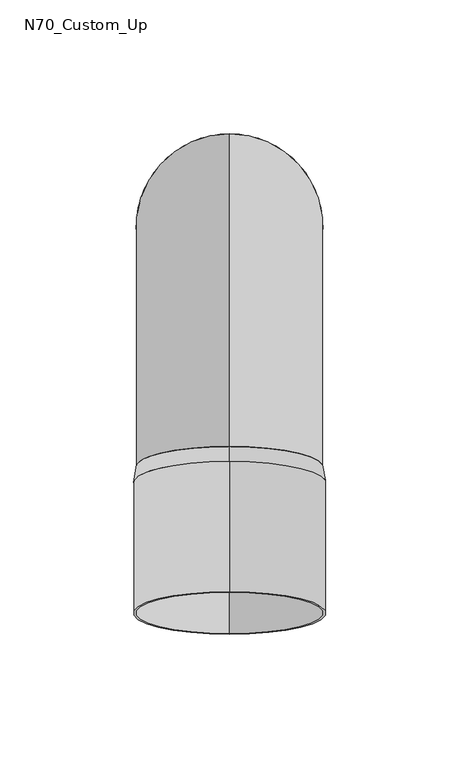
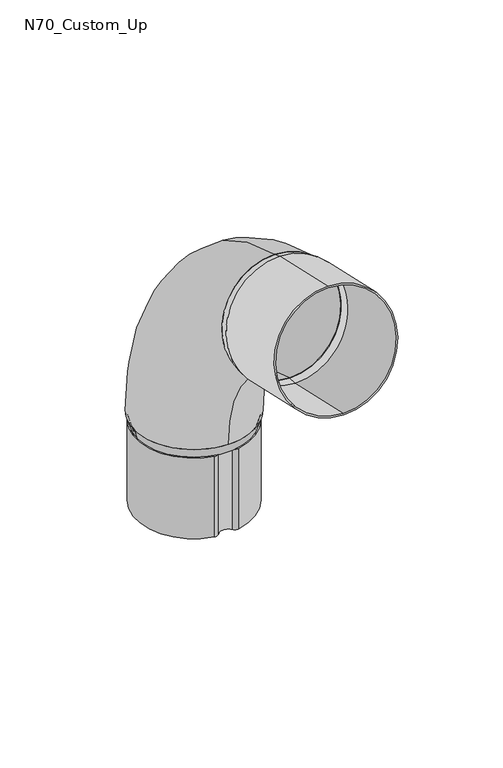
"""IFC4 building model written with IfcOpenShell, lengths in millimetres: proxy geometry, GROVIK_Downpipe_Elbow : N70_Custom_Up."""

from ifc_helpers import new_model, si_unit, point, frame, frame_2d, origin, origin_with_axes, origin_2d, place, context, project, spatial, polyline, circle_curve, ellipse_curve, trimmed, segment, composite_curve, outline, extrude, source, transform, mapped, element, save
from ifc_brep_helpers import plane_surface, revolved_surface, advanced_brep


def n70_custom_up_fea1b935(model_context):
    return source(origin(), model_context, "Body", "SolidModel", [
        advanced_brep(
        [(0.0, 35.0, 0.0), (0.0, -35.0, 0.0), (0.0, 34.0, 0.0), (0.0, -34.0, 0.0), (0.0, -81.9975304, 146.3244238), (0.0, -97.3986829, 78.0396927), (0.0, -82.2175469, 145.3489276), (0.0, -97.1786664, 79.0151889)],
        [
            (0, 1, circle_curve(frame((0.0, 0.0, 0.0), z_axis=(0.0, 0.0, -1.0), x_axis=(0.0, -1.0, 0.0)), 35.0)),
            (1, 0, circle_curve(frame((0.0, 0.0, 0.0), z_axis=(0.0, 0.0, -1.0), x_axis=(0.0, -1.0, 0.0)), 35.0)),
            (2, 3, circle_curve(frame((0.0, 0.0, 0.0), z_axis=(0.0, 0.0, 1.0), x_axis=(0.0, -1.0, 0.0)), 34.0)),
            (3, 2, circle_curve(frame((0.0, 0.0, 0.0), z_axis=(0.0, 0.0, 1.0), x_axis=(0.0, -1.0, 0.0)), 34.0)),
            (4, 5, circle_curve(frame((0.0, -89.6981067, 112.1820582), z_axis=(0.0, -0.9754961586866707, 0.22001646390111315), x_axis=(0.0, -0.22001646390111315, -0.9754961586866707)), 35.0)),
            (5, 4, circle_curve(frame((0.0, -89.6981067, 112.1820582), z_axis=(0.0, -0.9754961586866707, 0.22001646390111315), x_axis=(0.0, -0.22001646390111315, -0.9754961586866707)), 35.0)),
            (6, 7, circle_curve(frame((0.0, -89.6981067, 112.1820582), z_axis=(0.0, 0.9754961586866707, -0.22001646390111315), x_axis=(0.0, -0.22001646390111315, -0.9754961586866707)), 34.0)),
            (7, 6, circle_curve(frame((0.0, -89.6981067, 112.1820582), z_axis=(0.0, 0.9754961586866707, -0.22001646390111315), x_axis=(0.0, -0.22001646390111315, -0.9754961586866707)), 34.0)),
            (7, 3, circle_curve(frame((0.0, -115.0, 0.0), z_axis=(-1.0, 0.0, 0.0), x_axis=(0.0, 1.0, 0.0)), 81.0)),
            (2, 6, circle_curve(frame((0.0, -115.0, 0.0), z_axis=(1.0, 0.0, 0.0), x_axis=(0.0, 1.0, 0.0)), 149.0)),
            (5, 1, circle_curve(frame((0.0, -115.0, 0.0), z_axis=(-1.0, 0.0, 0.0), x_axis=(0.0, 1.0, 0.0)), 80.0)),
            (0, 4, circle_curve(frame((0.0, -115.0, 0.0), z_axis=(1.0, 0.0, 0.0), x_axis=(0.0, 1.0, 0.0)), 150.0)),
        ],
        [
            plane_surface(frame((0.0, 0.0, 0.0), z_axis=(0.0, 0.0, -1.0), x_axis=(1.0, 0.0, 0.0))),
            plane_surface(frame((0.0, -89.6981067, 112.1820582), z_axis=(0.0, -0.9754961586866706, 0.22001646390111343), x_axis=(1.0, 0.0, 0.0))),
            revolved_surface(trimmed(ellipse_curve(frame((0.0, 0.0, 0.0), z_axis=(0.0, 0.0, 1.0), x_axis=(0.0, -1.0, 0.0)), 34.0, 34.0), [point((0.0, 34.0, 0.0))], [point((0.0, -34.0, 0.0))], True, "CARTESIAN"), (0.0, -115.0, 0.0), (1.0, 0.0, 0.0)),
            revolved_surface(trimmed(ellipse_curve(frame((0.0, 0.0, 0.0), z_axis=(0.0, 0.0, 1.0), x_axis=(0.0, -1.0, 0.0)), 34.0, 34.0), [point((0.0, -34.0, 0.0))], [point((0.0, 34.0, 0.0))], True, "CARTESIAN"), (0.0, -115.0, 0.0), (1.0, 0.0, 0.0)),
            revolved_surface(trimmed(ellipse_curve(frame((0.0, 0.0, 0.0), z_axis=(0.0, 0.0, -1.0), x_axis=(0.0, -1.0, 0.0)), 35.0, 35.0), [point((0.0, 35.0, 0.0))], [point((0.0, -35.0, 0.0))], True, "CARTESIAN"), (0.0, -115.0, 0.0), (1.0, 0.0, 0.0)),
            revolved_surface(trimmed(ellipse_curve(frame((0.0, 0.0, 0.0), z_axis=(0.0, 0.0, -1.0), x_axis=(0.0, -1.0, 0.0)), 35.0, 35.0), [point((0.0, -35.0, 0.0))], [point((0.0, 35.0, 0.0))], True, "CARTESIAN"), (0.0, -115.0, 0.0), (1.0, 0.0, 0.0)),
        ],
        [
            (0, [[1, 2], [3, 4]]),
            (1, [[5, 6], [7, 8]]),
            (2, [[9, -3, 10, -8]]),
            (3, [[-10, -4, -9, -7]]),
            (4, [[11, -1, 12, -6]]),
            (5, [[-12, -2, -11, -5]]),
        ],
    ),
        extrude(outline(composite_curve([segment(trimmed(circle_curve(origin_2d(), 36.0), [point((0.0, -36.0))], [point((0.0, 36.0))], False, "CARTESIAN"), True, "CONTINUOUS"), segment(trimmed(circle_curve(origin_2d(), 36.0), [point((0.0, 36.0))], [point((0.0, -36.0))], False, "CARTESIAN"), True, "CONTINUOUS")], self_intersect=False), holes=[composite_curve([segment(trimmed(circle_curve(origin_2d(), 35.0), [point((0.0, -34.9999999))], [point((0.0, 35.0))], True, "CARTESIAN"), True, "CONTINUOUS"), segment(trimmed(circle_curve(origin_2d(), 35.0), [point((0.0, 35.0))], [point((0.0, -34.9999999))], True, "CARTESIAN"), True, "CONTINUOUS")], self_intersect=False)]), frame((0.0, -95.5510836, 113.502157), z_axis=(0.0, -0.975496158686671, 0.22001646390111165), x_axis=(1.0, 0.0, 0.0)), (0.0, 0.0, 1.0), 50.0),
        advanced_brep(
        [(-33.2, 0.0, -6.0), (33.2, 0.0, -6.0), (-32.2, 0.0, -6.0), (32.2, 0.0, -6.0), (-35.0, 0.0, 0.0), (35.0, 0.0, 0.0), (34.0, 0.0, 0.0), (-34.0, 0.0, 0.0)],
        [
            (0, 1, circle_curve(frame((0.0, 0.0, -6.0), z_axis=(0.0, 0.0, -1.0), x_axis=(-1.0, 0.0, 0.0)), 33.2)),
            (1, 0, circle_curve(frame((0.0, 0.0, -6.0), z_axis=(0.0, 0.0, -1.0), x_axis=(1.0, 0.0, 0.0)), 33.2)),
            (2, 3, circle_curve(frame((0.0, 0.0, -6.0), z_axis=(0.0, 0.0, 1.0), x_axis=(1.0, 0.0, 0.0)), 32.2)),
            (3, 2, circle_curve(frame((0.0, 0.0, -6.0), z_axis=(0.0, 0.0, 1.0), x_axis=(-1.0, 0.0, 0.0)), 32.2)),
            (4, 5, circle_curve(origin_with_axes(), 35.0)),
            (5, 4, circle_curve(frame((0.0, 0.0, 0.0), z_axis=(0.0, 0.0, 1.0), x_axis=(-1.0, 0.0, 0.0)), 35.0)),
            (6, 7, circle_curve(frame((0.0, 0.0, 0.0), z_axis=(0.0, 0.0, -1.0), x_axis=(1.0, 0.0, 0.0)), 34.0)),
            (7, 6, circle_curve(frame((0.0, 0.0, 0.0), z_axis=(0.0, 0.0, -1.0), x_axis=(-1.0, 0.0, 0.0)), 34.0)),
            (1, 5),
            (4, 0),
            (6, 3),
            (2, 7),
        ],
        [
            plane_surface(frame((0.0, 0.0, -6.0), z_axis=(0.0, 0.0, -1.0), x_axis=(0.0, 1.0, 0.0))),
            plane_surface(frame((0.0, 0.0, 0.0), z_axis=(0.0, 0.0, 1.0), x_axis=(0.0, 1.0, 0.0))),
            revolved_surface(polyline([(33.20000000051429, 0.0, -6.0), (35.0, 0.0, 0.0)]), (0.0, 0.0, -116.6666667), (0.0, 0.0, 1.0)),
            revolved_surface(polyline([(-33.20000000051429, 0.0, -6.0), (-35.0, 0.0, 0.0)]), (0.0, 0.0, -116.6666667), (0.0, 0.0, 1.0)),
            revolved_surface(polyline([(34.0, 0.0, 0.0), (32.19999999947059, 0.0, -6.0)]), (0.0, 0.0, -113.3333333), (0.0, 0.0, 1.0)),
        ],
        [
            (0, [[1, 2], [3, 4]]),
            (1, [[5, 6], [7, 8]]),
            (2, [[-2, 9, -5, 10]]),
            (3, [[-1, -10, -6, -9]]),
            (4, [[11, -3, 12, -7]]),
            (4, [[-11, -8, -12, -4]]),
        ],
    ),
        extrude(outline(composite_curve([segment(trimmed(circle_curve(frame_2d((-6.6504209, 30.1934466)), 3.0848069), [point((-7.2, 33.2289031))], [point((-4.2037022, 32.0721698))], False, "CARTESIAN"), True, "CONTINUOUS"), segment(trimmed(circle_curve(frame_2d((0.0, 35.3)), 5.3), [point((-4.2037022, 32.0721698))], [point((4.2058428, 32.0749594))], True, "CARTESIAN"), True, "CONTINUOUS"), segment(trimmed(circle_curve(frame_2d((6.6465812, 30.203401)), 3.0757007), [point((4.2058428, 32.0749594))], [point((7.2, 33.2289031))], False, "CARTESIAN"), True, "CONTINUOUS"), segment(trimmed(circle_curve(origin_2d(), 34.0), [point((7.2, 33.2289031))], [point((7.2, -33.2289031))], False, "CARTESIAN"), True, "CONTINUOUS"), segment(trimmed(circle_curve(frame_2d((6.6465812, -30.203401)), 3.0757007), [point((7.2, -33.2289031))], [point((4.2058428, -32.0749594))], False, "CARTESIAN"), True, "CONTINUOUS"), segment(trimmed(circle_curve(frame_2d((0.0, -35.3)), 5.3), [point((4.2058428, -32.0749594))], [point((-4.2037022, -32.0721698))], True, "CARTESIAN"), True, "CONTINUOUS"), segment(trimmed(circle_curve(frame_2d((-6.6504209, -30.1934466)), 3.0848069), [point((-4.2037022, -32.0721698))], [point((-7.2, -33.2289031))], False, "CARTESIAN"), True, "CONTINUOUS"), segment(trimmed(circle_curve(origin_2d(), 34.0), [point((-7.2, -33.2289031))], [point((-7.2, 33.2289031))], False, "CARTESIAN"), True, "CONTINUOUS")], self_intersect=False), holes=[composite_curve([segment(trimmed(circle_curve(origin_2d(), 33.0), [point((-7.1903364, 32.2071275))], [point((-7.1903364, -32.2071275))], True, "CARTESIAN"), True, "CONTINUOUS"), segment(trimmed(circle_curve(frame_2d((-6.6504209, -30.1934466)), 2.0848069), [point((-7.1903364, -32.2071275))], [point((-4.9968535, -31.4631452))], True, "CARTESIAN"), True, "CONTINUOUS"), segment(trimmed(circle_curve(frame_2d((0.0, -35.3)), 6.3), [point((-4.9968535, -31.4631452))], [point((4.999398, -31.4664612))], False, "CARTESIAN"), True, "CONTINUOUS"), segment(trimmed(circle_curve(frame_2d((6.6465812, -30.203401)), 2.0757007), [point((4.999398, -31.4664612))], [point((7.1790209, -32.2096516))], True, "CARTESIAN"), True, "CONTINUOUS"), segment(trimmed(circle_curve(origin_2d(), 33.0), [point((7.1790209, -32.2096516))], [point((7.1790209, 32.2096516))], True, "CARTESIAN"), True, "CONTINUOUS"), segment(trimmed(circle_curve(frame_2d((6.6465812, 30.203401)), 2.0757007), [point((7.1790209, 32.2096516))], [point((4.999398, 31.4664612))], True, "CARTESIAN"), True, "CONTINUOUS"), segment(trimmed(circle_curve(frame_2d((0.0, 35.3)), 6.3), [point((4.999398, 31.4664612))], [point((-4.9968535, 31.4631452))], False, "CARTESIAN"), True, "CONTINUOUS"), segment(trimmed(circle_curve(frame_2d((-6.6504209, 30.1934466)), 2.0848069), [point((-4.9968535, 31.4631452))], [point((-7.1903364, 32.2071275))], True, "CARTESIAN"), True, "CONTINUOUS")], self_intersect=False)]), frame((0.0, 0.0, -56.0), z_axis=(0.0, 0.0, 1.0), x_axis=(1.0, 0.0, 0.0)), (0.0, 0.0, 1.0), 50.0),
        advanced_brep(
        [(0.0, -97.3986829, 78.0396927), (0.0, -81.9975304, 146.3244238), (0.0, -97.1786664, 79.0151889), (0.0, -82.2175469, 145.3489276), (0.0, -103.4716763, 78.3842953), (0.0, -87.6304909, 148.6200187), (0.0, -87.8505074, 147.6445226), (0.0, -103.2516598, 79.3597915)],
        [
            (0, 1, circle_curve(frame((0.0, -89.6981067, 112.1820582), z_axis=(0.0, 0.9754961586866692, -0.22001646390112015), x_axis=(0.0, -0.22001646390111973, -0.9754961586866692)), 35.0)),
            (1, 0, circle_curve(frame((0.0, -89.6981067, 112.1820582), z_axis=(0.0, 0.9754961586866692, -0.22001646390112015), x_axis=(0.0, 0.22001646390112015, 0.9754961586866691)), 35.0)),
            (2, 3, circle_curve(frame((0.0, -89.6981067, 112.1820582), z_axis=(0.0, -0.9754961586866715, 0.2200164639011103), x_axis=(0.0, 0.220016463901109, 0.9754961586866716)), 34.0)),
            (3, 2, circle_curve(frame((0.0, -89.6981067, 112.1820582), z_axis=(0.0, -0.9754961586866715, 0.2200164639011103), x_axis=(0.0, -0.22001646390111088, -0.975496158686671)), 34.0)),
            (4, 5, circle_curve(frame((0.0, -95.5510836, 113.502157), z_axis=(0.0, -0.9754961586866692, 0.22001646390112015), x_axis=(0.0, 0.22001646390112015, 0.9754961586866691)), 36.0)),
            (5, 4, circle_curve(frame((0.0, -95.5510836, 113.502157), z_axis=(0.0, -0.9754961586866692, 0.22001646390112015), x_axis=(0.0, -0.22001646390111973, -0.9754961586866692)), 36.0)),
            (6, 7, circle_curve(frame((0.0, -95.5510836, 113.502157), z_axis=(0.0, 0.9754961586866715, -0.2200164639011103), x_axis=(0.0, 0.220016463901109, 0.9754961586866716)), 35.0)),
            (7, 6, circle_curve(frame((0.0, -95.5510836, 113.502157), z_axis=(0.0, 0.9754961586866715, -0.2200164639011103), x_axis=(0.0, -0.22001646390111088, -0.975496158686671)), 35.0)),
            (1, 5),
            (4, 0),
            (6, 3),
            (2, 7),
        ],
        [
            plane_surface(frame((0.0, -89.6981067, 112.1820582), z_axis=(0.0, 0.9754961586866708, -0.220016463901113), x_axis=(-1.0, 0.0, 0.0))),
            plane_surface(frame((0.0, -95.5510836, 113.502157), z_axis=(0.0, -0.9754961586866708, 0.220016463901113), x_axis=(-1.0, 0.0, 0.0))),
            revolved_surface(polyline([(0.0, -81.99753040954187, 146.32442375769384), (0.0, -87.63049090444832, 148.62001870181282)]), (0.0, 115.1560867, 65.9786008), (0.0, -0.9754961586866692, 0.22001646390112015)),
            revolved_surface(polyline([(0.0, -97.39868287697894, 78.03969267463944), (0.0, -103.47167630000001, 78.3842953)]), (0.0, 115.1560867, 65.9786008), (0.0, -0.9754961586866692, 0.22001646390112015)),
            revolved_surface(polyline([(0.0, -87.8505074, 147.6445226), (0.0, -82.21754686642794, 145.3489276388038)]), (0.0, 109.3031097, 67.2986996), (0.0, -0.9754961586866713, 0.22001646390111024)),
        ],
        [
            (0, [[1, 2], [3, 4]]),
            (1, [[5, 6], [7, 8]]),
            (2, [[-2, 9, -5, 10]]),
            (3, [[-1, -10, -6, -9]]),
            (4, [[11, -3, 12, -7]]),
            (4, [[-11, -8, -12, -4]]),
        ],
    ),
    ])


if __name__ == "__main__":
    model = new_model("IFC4")
    model_context = context("Model", 3, world=origin())
    ifc_project = project(units=[si_unit("LENGTHUNIT", "METRE", prefix="MILLI")], contexts=[model_context])
    site = spatial("IfcSite", under=ifc_project)
    building = spatial("IfcBuilding", under=site)
    placement = place(None, origin())
    n70_custom_up_shape = n70_custom_up_fea1b935(model_context)
    element("IfcBuildingElementProxy", 1, Name="GROVIK_Downpipe_Elbow : N70_Custom_Up", ObjectType="GROVIK_Downpipe_Elbow : N70_Custom_Up", at=placement, inside=building, context=model_context, shape_type="MappedRepresentation", body=[
        mapped(n70_custom_up_shape, transform((0.0, 0.0, 0.0), x_axis=(1.0, 0.0, 0.0), y_axis=(0.0, 1.0, 0.0), z_axis=(0.0, 0.0, 1.0))),
    ])
    save(model, "model.ifc")
